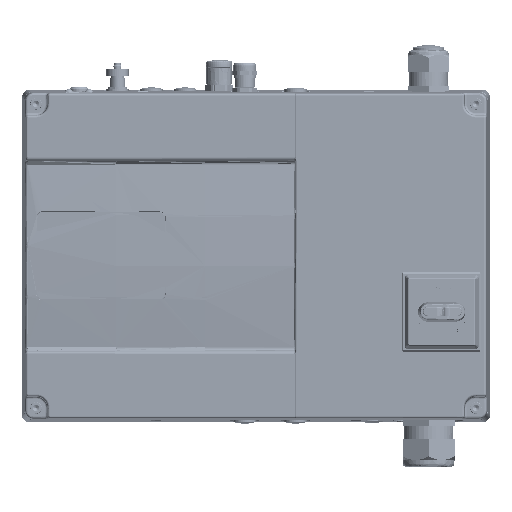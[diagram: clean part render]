
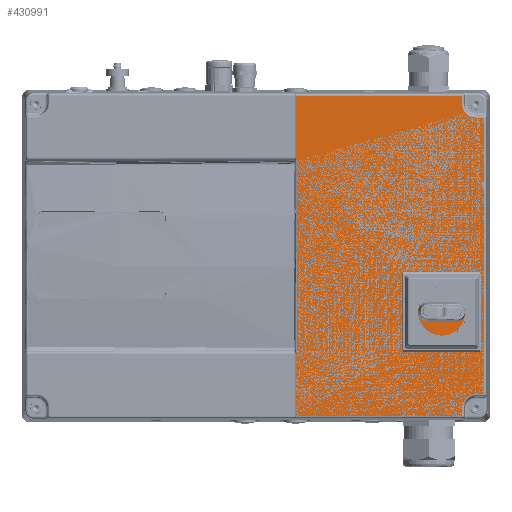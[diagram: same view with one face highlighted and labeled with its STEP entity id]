
A CAD part, top view. The second image highlights one B-rep face of the part: STEP entity #430991.
In plain terms, the highlighted planar face has unit normal (0, 0, 1).
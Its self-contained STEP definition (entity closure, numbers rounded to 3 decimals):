
#430826=AXIS2_PLACEMENT_3D('Plane Axis2P3D',#430823,#430824,#430825) ;
#430918=AXIS2_PLACEMENT_3D('Circle Axis2P3D',#430916,#430917,$) ;
#430946=AXIS2_PLACEMENT_3D('Circle Axis2P3D',#430944,#430945,$) ;
#430722=CARTESIAN_POINT('Vertex',(-22.728,-141.665,122.5)) ;
#430725=CARTESIAN_POINT('Line Origine',(-205.,-141.665,122.5)) ;
#430729=CARTESIAN_POINT('Vertex',(-169.623,-141.665,122.5)) ;
#430823=CARTESIAN_POINT('Axis2P3D Location',(0.,-145.,122.5)) ;
#430828=CARTESIAN_POINT('Line Origine',(-169.623,114.378,122.5)) ;
#430832=CARTESIAN_POINT('Vertex',(-169.623,141.656,122.5)) ;
#430834=CARTESIAN_POINT('Vertex',(-169.623,87.1,122.5)) ;
#430838=CARTESIAN_POINT('Control Point',(-168.997,84.035,122.5)) ;
#430839=CARTESIAN_POINT('Control Point',(-168.997,84.206,122.5)) ;
#430840=CARTESIAN_POINT('Control Point',(-169.008,84.372,122.5)) ;
#430841=CARTESIAN_POINT('Control Point',(-169.027,84.533,122.5)) ;
#430842=CARTESIAN_POINT('Control Point',(-169.085,84.887,122.5)) ;
#430843=CARTESIAN_POINT('Control Point',(-169.167,85.21,122.5)) ;
#430844=CARTESIAN_POINT('Control Point',(-169.217,85.383,122.5)) ;
#430845=CARTESIAN_POINT('Control Point',(-169.302,85.658,122.5)) ;
#430846=CARTESIAN_POINT('Control Point',(-169.384,85.914,122.5)) ;
#430847=CARTESIAN_POINT('Control Point',(-169.416,86.014,122.5)) ;
#430848=CARTESIAN_POINT('Control Point',(-169.486,86.241,122.5)) ;
#430849=CARTESIAN_POINT('Control Point',(-169.543,86.457,122.5)) ;
#430850=CARTESIAN_POINT('Control Point',(-169.571,86.578,122.5)) ;
#430851=CARTESIAN_POINT('Control Point',(-169.602,86.755,122.5)) ;
#430852=CARTESIAN_POINT('Control Point',(-169.618,86.929,122.5)) ;
#430853=CARTESIAN_POINT('Control Point',(-169.621,86.986,122.5)) ;
#430854=CARTESIAN_POINT('Control Point',(-169.623,87.043,122.5)) ;
#430855=CARTESIAN_POINT('Control Point',(-169.623,87.099,122.5)) ;
#430856=CARTESIAN_POINT('Control Point',(-169.623,87.1,122.5)) ;
#430857=CARTESIAN_POINT('Control Point',(-169.623,87.1,122.5)) ;
#430858=CARTESIAN_POINT('Control Point',(-169.623,87.1,122.5)) ;
#430859=CARTESIAN_POINT('Vertex',(-168.997,84.035,122.5)) ;
#430862=CARTESIAN_POINT('Line Origine',(-168.997,0.,122.5)) ;
#430866=CARTESIAN_POINT('Vertex',(-168.997,-84.035,122.5)) ;
#430870=CARTESIAN_POINT('Control Point',(-168.997,-84.035,122.5)) ;
#430871=CARTESIAN_POINT('Control Point',(-168.997,-84.206,122.5)) ;
#430872=CARTESIAN_POINT('Control Point',(-169.008,-84.372,122.5)) ;
#430873=CARTESIAN_POINT('Control Point',(-169.027,-84.533,122.5)) ;
#430874=CARTESIAN_POINT('Control Point',(-169.085,-84.887,122.5)) ;
#430875=CARTESIAN_POINT('Control Point',(-169.167,-85.21,122.5)) ;
#430876=CARTESIAN_POINT('Control Point',(-169.217,-85.383,122.5)) ;
#430877=CARTESIAN_POINT('Control Point',(-169.302,-85.658,122.5)) ;
#430878=CARTESIAN_POINT('Control Point',(-169.384,-85.914,122.5)) ;
#430879=CARTESIAN_POINT('Control Point',(-169.416,-86.014,122.5)) ;
#430880=CARTESIAN_POINT('Control Point',(-169.484,-86.235,122.5)) ;
#430881=CARTESIAN_POINT('Control Point',(-169.54,-86.447,122.5)) ;
#430882=CARTESIAN_POINT('Control Point',(-169.567,-86.563,122.5)) ;
#430883=CARTESIAN_POINT('Control Point',(-169.598,-86.732,122.5)) ;
#430884=CARTESIAN_POINT('Control Point',(-169.615,-86.899,122.5)) ;
#430885=CARTESIAN_POINT('Control Point',(-169.619,-86.954,122.5)) ;
#430886=CARTESIAN_POINT('Control Point',(-169.622,-87.016,122.5)) ;
#430887=CARTESIAN_POINT('Control Point',(-169.623,-87.077,122.5)) ;
#430888=CARTESIAN_POINT('Control Point',(-169.623,-87.085,122.5)) ;
#430889=CARTESIAN_POINT('Control Point',(-169.623,-87.092,122.5)) ;
#430890=CARTESIAN_POINT('Control Point',(-169.623,-87.1,122.5)) ;
#430891=CARTESIAN_POINT('Vertex',(-169.623,-87.1,122.5)) ;
#430894=CARTESIAN_POINT('Line Origine',(-169.623,-114.378,122.5)) ;
#430898=CARTESIAN_POINT('Vertex',(-169.623,-141.656,122.5)) ;
#430902=CARTESIAN_POINT('Control Point',(-169.623,-141.656,122.5)) ;
#430903=CARTESIAN_POINT('Control Point',(-169.623,-141.658,122.5)) ;
#430904=CARTESIAN_POINT('Control Point',(-169.623,-141.66,122.5)) ;
#430905=CARTESIAN_POINT('Control Point',(-169.623,-141.662,122.5)) ;
#430906=CARTESIAN_POINT('Control Point',(-169.623,-141.663,122.5)) ;
#430907=CARTESIAN_POINT('Control Point',(-169.623,-141.665,122.5)) ;
#430909=CARTESIAN_POINT('Line Origine',(-22.728,-138.083,122.5)) ;
#430913=CARTESIAN_POINT('Vertex',(-22.728,-134.5,122.5)) ;
#430916=CARTESIAN_POINT('Axis2P3D Location',(-10.5,-134.5,122.5)) ;
#430920=CARTESIAN_POINT('Vertex',(-10.5,-122.272,122.5)) ;
#430923=CARTESIAN_POINT('Line Origine',(-6.917,-122.272,122.5)) ;
#430927=CARTESIAN_POINT('Vertex',(-3.335,-122.272,122.5)) ;
#430930=CARTESIAN_POINT('Line Origine',(-3.335,0.,122.5)) ;
#430934=CARTESIAN_POINT('Vertex',(-3.335,122.272,122.5)) ;
#430937=CARTESIAN_POINT('Line Origine',(-6.917,122.272,122.5)) ;
#430941=CARTESIAN_POINT('Vertex',(-10.5,122.272,122.5)) ;
#430944=CARTESIAN_POINT('Axis2P3D Location',(-10.5,134.5,122.5)) ;
#430948=CARTESIAN_POINT('Vertex',(-22.728,134.5,122.5)) ;
#430951=CARTESIAN_POINT('Line Origine',(-22.728,138.083,122.5)) ;
#430955=CARTESIAN_POINT('Vertex',(-22.728,141.665,122.5)) ;
#430958=CARTESIAN_POINT('Line Origine',(-96.176,141.665,122.5)) ;
#430962=CARTESIAN_POINT('Vertex',(-169.623,141.665,122.5)) ;
#430966=CARTESIAN_POINT('Control Point',(-169.623,141.665,122.5)) ;
#430967=CARTESIAN_POINT('Control Point',(-169.623,141.663,122.5)) ;
#430968=CARTESIAN_POINT('Control Point',(-169.623,141.662,122.5)) ;
#430969=CARTESIAN_POINT('Control Point',(-169.623,141.66,122.5)) ;
#430970=CARTESIAN_POINT('Control Point',(-169.623,141.658,122.5)) ;
#430971=CARTESIAN_POINT('Control Point',(-169.623,141.656,122.5)) ;
#430726=DIRECTION('Vector Direction',(-1.,0.,0.)) ;
#430824=DIRECTION('Axis2P3D Direction',(0.,0.,1.)) ;
#430825=DIRECTION('Axis2P3D XDirection',(0.,1.,0.)) ;
#430829=DIRECTION('Vector Direction',(0.,-1.,0.)) ;
#430863=DIRECTION('Vector Direction',(0.,1.,0.)) ;
#430895=DIRECTION('Vector Direction',(0.,-1.,0.)) ;
#430910=DIRECTION('Vector Direction',(0.,-1.,0.)) ;
#430917=DIRECTION('Axis2P3D Direction',(0.,0.,1.)) ;
#430924=DIRECTION('Vector Direction',(-1.,0.,0.)) ;
#430931=DIRECTION('Vector Direction',(0.,-1.,0.)) ;
#430938=DIRECTION('Vector Direction',(1.,0.,0.)) ;
#430945=DIRECTION('Axis2P3D Direction',(0.,0.,1.)) ;
#430952=DIRECTION('Vector Direction',(0.,1.,0.)) ;
#430959=DIRECTION('Vector Direction',(-1.,0.,0.)) ;
#430727=VECTOR('Line Direction',#430726,1.) ;
#430830=VECTOR('Line Direction',#430829,1.) ;
#430864=VECTOR('Line Direction',#430863,1.) ;
#430896=VECTOR('Line Direction',#430895,1.) ;
#430911=VECTOR('Line Direction',#430910,1.) ;
#430925=VECTOR('Line Direction',#430924,1.) ;
#430932=VECTOR('Line Direction',#430931,1.) ;
#430939=VECTOR('Line Direction',#430938,1.) ;
#430953=VECTOR('Line Direction',#430952,1.) ;
#430960=VECTOR('Line Direction',#430959,1.) ;
#430974=ORIENTED_EDGE('',*,*,#430836,.T.) ;
#430975=ORIENTED_EDGE('',*,*,#430861,.T.) ;
#430976=ORIENTED_EDGE('',*,*,#430868,.T.) ;
#430977=ORIENTED_EDGE('',*,*,#430893,.T.) ;
#430978=ORIENTED_EDGE('',*,*,#430900,.T.) ;
#430979=ORIENTED_EDGE('',*,*,#430908,.T.) ;
#430980=ORIENTED_EDGE('',*,*,#430731,.F.) ;
#430981=ORIENTED_EDGE('',*,*,#430915,.T.) ;
#430982=ORIENTED_EDGE('',*,*,#430922,.T.) ;
#430983=ORIENTED_EDGE('',*,*,#430929,.T.) ;
#430984=ORIENTED_EDGE('',*,*,#430936,.F.) ;
#430985=ORIENTED_EDGE('',*,*,#430943,.F.) ;
#430986=ORIENTED_EDGE('',*,*,#430950,.F.) ;
#430987=ORIENTED_EDGE('',*,*,#430957,.F.) ;
#430988=ORIENTED_EDGE('',*,*,#430964,.F.) ;
#430989=ORIENTED_EDGE('',*,*,#430972,.F.) ;
#430991=ADVANCED_FACE('COVER_STANDARD_(DK01)',(#430990),#430827,.T.) ;
#430837=B_SPLINE_CURVE_WITH_KNOTS('',5,(#430838,#430839,#430840,#430841,#430842,#430843,#430844,#430845,#430846,#430847,#430848,#430849,#430850,#430851,#430852,#430853,#430854,#430855,#430856,#430857,#430858),.UNSPECIFIED.,.F.,.U.,(6,3,3,3,3,3,6),(0.,1.119,2.571,3.54,4.83,5.453,5.456),.UNSPECIFIED.) ;
#430869=B_SPLINE_CURVE_WITH_KNOTS('',5,(#430870,#430871,#430872,#430873,#430874,#430875,#430876,#430877,#430878,#430879,#430880,#430881,#430882,#430883,#430884,#430885,#430886,#430887,#430888,#430889,#430890),.UNSPECIFIED.,.F.,.U.,(6,3,3,3,3,3,6),(0.,1.119,2.571,3.54,4.775,5.372,5.456),.UNSPECIFIED.) ;
#430901=B_SPLINE_CURVE_WITH_KNOTS('',5,(#430902,#430903,#430904,#430905,#430906,#430907),.UNSPECIFIED.,.F.,.U.,(6,6),(4.507,4.521),.UNSPECIFIED.) ;
#430965=B_SPLINE_CURVE_WITH_KNOTS('',5,(#430966,#430967,#430968,#430969,#430970,#430971),.UNSPECIFIED.,.F.,.U.,(6,6),(3.397,3.412),.UNSPECIFIED.) ;
#430919=CIRCLE('generated circle',#430918,12.228) ;
#430947=CIRCLE('generated circle',#430946,12.228) ;
#430731=EDGE_CURVE('',#430723,#430730,#430728,.T.) ;
#430836=EDGE_CURVE('',#430833,#430835,#430831,.T.) ;
#430861=EDGE_CURVE('',#430835,#430860,#430837,.F.) ;
#430868=EDGE_CURVE('',#430860,#430867,#430865,.F.) ;
#430893=EDGE_CURVE('',#430867,#430892,#430869,.T.) ;
#430900=EDGE_CURVE('',#430892,#430899,#430897,.T.) ;
#430908=EDGE_CURVE('',#430899,#430730,#430901,.T.) ;
#430915=EDGE_CURVE('',#430723,#430914,#430912,.F.) ;
#430922=EDGE_CURVE('',#430914,#430921,#430919,.F.) ;
#430929=EDGE_CURVE('',#430921,#430928,#430926,.F.) ;
#430936=EDGE_CURVE('',#430935,#430928,#430933,.T.) ;
#430943=EDGE_CURVE('',#430942,#430935,#430940,.T.) ;
#430950=EDGE_CURVE('',#430949,#430942,#430947,.T.) ;
#430957=EDGE_CURVE('',#430956,#430949,#430954,.F.) ;
#430964=EDGE_CURVE('',#430963,#430956,#430961,.F.) ;
#430972=EDGE_CURVE('',#430833,#430963,#430965,.F.) ;
#430973=EDGE_LOOP('',(#430974,#430975,#430976,#430977,#430978,#430979,#430980,#430981,#430982,#430983,#430984,#430985,#430986,#430987,#430988,#430989)) ;
#430990=FACE_OUTER_BOUND('',#430973,.T.) ;
#430728=LINE('Line',#430725,#430727) ;
#430831=LINE('Line',#430828,#430830) ;
#430865=LINE('Line',#430862,#430864) ;
#430897=LINE('Line',#430894,#430896) ;
#430912=LINE('Line',#430909,#430911) ;
#430926=LINE('Line',#430923,#430925) ;
#430933=LINE('Line',#430930,#430932) ;
#430940=LINE('Line',#430937,#430939) ;
#430954=LINE('Line',#430951,#430953) ;
#430961=LINE('Line',#430958,#430960) ;
#430827=PLANE('',#430826) ;
#430723=VERTEX_POINT('',#430722) ;
#430730=VERTEX_POINT('',#430729) ;
#430833=VERTEX_POINT('',#430832) ;
#430835=VERTEX_POINT('',#430834) ;
#430860=VERTEX_POINT('',#430859) ;
#430867=VERTEX_POINT('',#430866) ;
#430892=VERTEX_POINT('',#430891) ;
#430899=VERTEX_POINT('',#430898) ;
#430914=VERTEX_POINT('',#430913) ;
#430921=VERTEX_POINT('',#430920) ;
#430928=VERTEX_POINT('',#430927) ;
#430935=VERTEX_POINT('',#430934) ;
#430942=VERTEX_POINT('',#430941) ;
#430949=VERTEX_POINT('',#430948) ;
#430956=VERTEX_POINT('',#430955) ;
#430963=VERTEX_POINT('',#430962) ;
